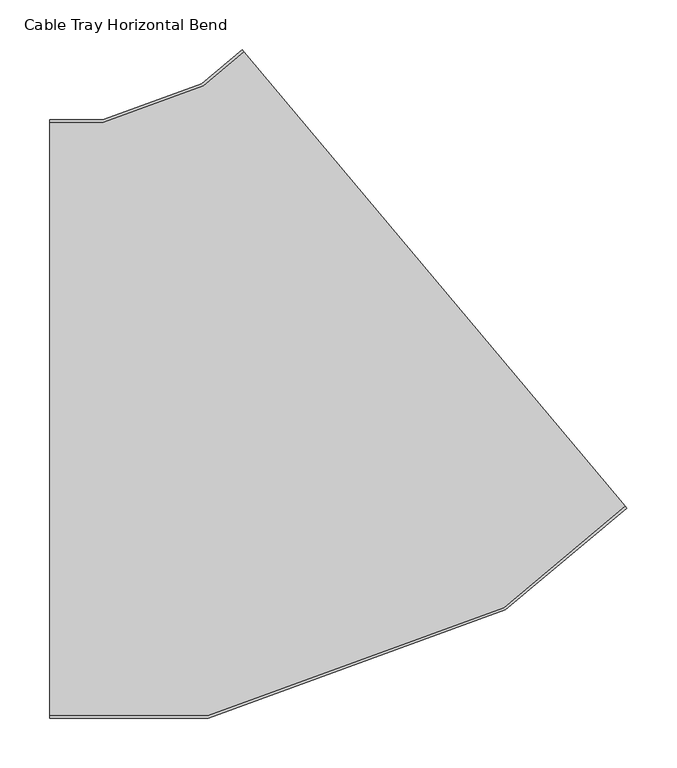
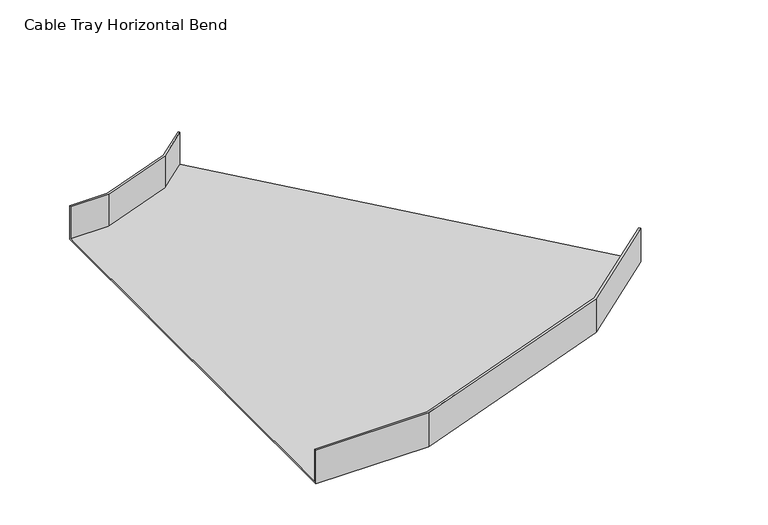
"""IFC4 building model written with IfcOpenShell, lengths in millimetres: cable carrier fitting geometry, Cable Tray Horizontal Bend : ELEC_SUB_CT_N2402."""

from ifc_helpers import new_model, si_unit, origin, place, context, project, spatial, faceted_brep, source, transform, mapped, element, save


def cable_tray_horizontal_bend_765600c6(model_context):
    return source(origin(), model_context, "Body", "Brep", [
        faceted_brep([(-218.3821406, -300.0, -25.0), (-218.3821406, -300.0, 25.0), (-218.3821406, -297.46, 25.0), (-218.3821406, -297.46, -22.46), (-218.3821406, 297.46, -22.46), (-218.3821406, 297.46, 25.0), (-218.3821406, 300.0, 25.0), (-218.3821406, 300.0, -25.0), (360.1267082, -89.4399988, -25.0), (-25.5458577, 370.1866671, -25.0), (-25.5458577, 370.1866671, 25.0), (-23.9131771, 368.2409142, 25.0), (-23.9131771, 368.2409142, -22.46), (358.4940276, -87.4942459, -22.46), (358.4940276, -87.4942459, 25.0), (360.1267082, -89.4399988, 25.0), (-59.6878579, -300.0, -25.0), (-59.6878579, -300.0, 25.0), (238.5598348, -191.4467174, 25.0), (237.270243, -189.2130789, 25.0), (-60.1357285, -297.46, 25.0), (-60.1357285, -297.46, -22.46), (237.270243, -189.2130789, -22.46), (-64.778557, 333.950789, -22.46), (-165.0361758, 297.46, -22.46), (-165.0361758, 297.46, 25.0), (-64.778557, 333.950789, 25.0), (-66.0681488, 336.1844275, 25.0), (-165.4840463, 300.0, 25.0), (-165.4840463, 300.0, -25.0), (-66.0681488, 336.1844275, -25.0), (238.5598348, -191.4467174, -25.0)], [[[0, 1, 2, 3, 4, 5, 6, 7]], [[8, 9, 10, 11, 12, 13, 14, 15]], [[1, 0, 16, 17]], [[2, 1, 17, 18, 15, 14, 19, 20]], [[3, 2, 20, 21]], [[4, 3, 21, 22, 13, 12, 23, 24]], [[5, 4, 24, 25]], [[6, 5, 25, 26, 11, 10, 27, 28]], [[7, 6, 28, 29]], [[0, 7, 29, 30, 9, 8, 31, 16]], [[17, 16, 31, 18]], [[21, 20, 19, 22]], [[25, 24, 23, 26]], [[29, 28, 27, 30]], [[18, 31, 8, 15]], [[22, 19, 14, 13]], [[26, 23, 12, 11]], [[30, 27, 10, 9]]]),
    ])


if __name__ == "__main__":
    model = new_model("IFC4")
    model_context = context("Model", 3, world=origin())
    ifc_project = project(units=[si_unit("LENGTHUNIT", "METRE", prefix="MILLI")], contexts=[model_context])
    site = spatial("IfcSite", under=ifc_project)
    building = spatial("IfcBuilding", under=site)
    placement = place(None, origin())
    cable_tray_horizontal_bend_shape = cable_tray_horizontal_bend_765600c6(model_context)
    element("IfcCableCarrierFitting", 1, ObjectType="Cable Tray Horizontal Bend : ELEC_SUB_CT_N2402", at=placement, inside=building, context=model_context, shape_type="MappedRepresentation", body=[
        mapped(cable_tray_horizontal_bend_shape, transform((0.0, 0.0, 0.0), x_axis=(1.0, 0.0, 0.0), y_axis=(0.0, 1.0, 0.0), z_axis=(0.0, 0.0, 1.0))),
    ])
    save(model, "model.ifc")
